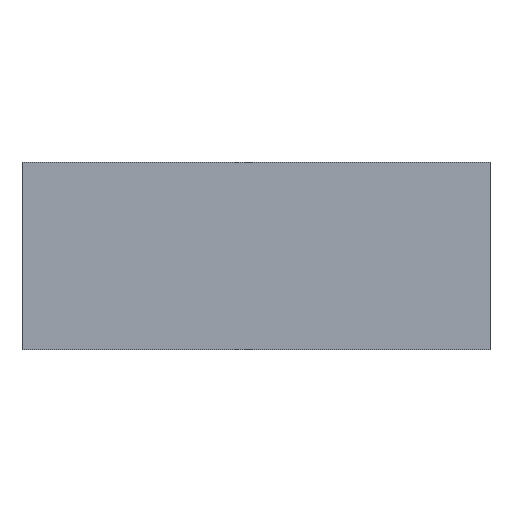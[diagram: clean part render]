
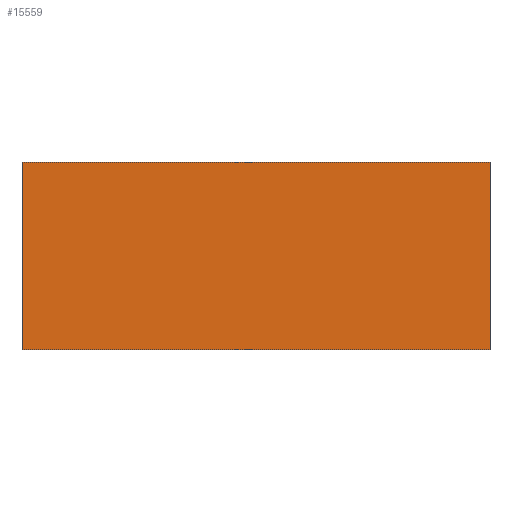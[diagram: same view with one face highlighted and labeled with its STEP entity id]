
A CAD part, front view. The second image highlights one B-rep face of the part: STEP entity #15559.
In plain terms, the highlighted planar face has unit normal (0, -1, 0).
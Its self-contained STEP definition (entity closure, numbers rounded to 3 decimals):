
#161=FACE_OUTER_BOUND('',#1326,.T.);
#1326=EDGE_LOOP('',(#10378,#10379,#10380,#10381));
#2672=LINE('',#22909,#4848);
#2673=LINE('',#22911,#4849);
#2674=LINE('',#22913,#4850);
#2675=LINE('',#22914,#4851);
#4848=VECTOR('',#18359,1.);
#4849=VECTOR('',#18360,1.);
#4850=VECTOR('',#18361,1.);
#4851=VECTOR('',#18362,1.);
#6892=VERTEX_POINT('',#22907);
#6893=VERTEX_POINT('',#22908);
#6894=VERTEX_POINT('',#22910);
#6895=VERTEX_POINT('',#22912);
#8040=EDGE_CURVE('',#6892,#6893,#2672,.T.);
#8041=EDGE_CURVE('',#6894,#6892,#2673,.T.);
#8042=EDGE_CURVE('',#6895,#6894,#2674,.T.);
#8043=EDGE_CURVE('',#6895,#6893,#2675,.T.);
#10378=ORIENTED_EDGE('',*,*,#8040,.F.);
#10379=ORIENTED_EDGE('',*,*,#8041,.F.);
#10380=ORIENTED_EDGE('',*,*,#8042,.F.);
#10381=ORIENTED_EDGE('',*,*,#8043,.T.);
#14394=PLANE('',#16738);
#15559=ADVANCED_FACE('',(#161),#14394,.T.);
#16738=AXIS2_PLACEMENT_3D('',#22906,#18357,#18358);
#18357=DIRECTION('center_axis',(0.,-1.,0.));
#18358=DIRECTION('ref_axis',(0.,0.,-1.));
#18359=DIRECTION('',(0.,0.,-1.));
#18360=DIRECTION('',(1.,0.,0.));
#18361=DIRECTION('',(0.,0.,1.));
#18362=DIRECTION('',(1.,0.,0.));
#22906=CARTESIAN_POINT('Origin',(784.038,948.43,0.));
#22907=CARTESIAN_POINT('',(784.,948.43,22.));
#22908=CARTESIAN_POINT('',(784.,948.43,0.));
#22909=CARTESIAN_POINT('',(784.,948.43,16.5));
#22910=CARTESIAN_POINT('',(729.038,948.43,22.));
#22911=CARTESIAN_POINT('',(729.038,948.43,22.));
#22912=CARTESIAN_POINT('',(729.038,948.43,0.));
#22913=CARTESIAN_POINT('',(729.038,948.43,0.));
#22914=CARTESIAN_POINT('',(729.038,948.43,0.));
